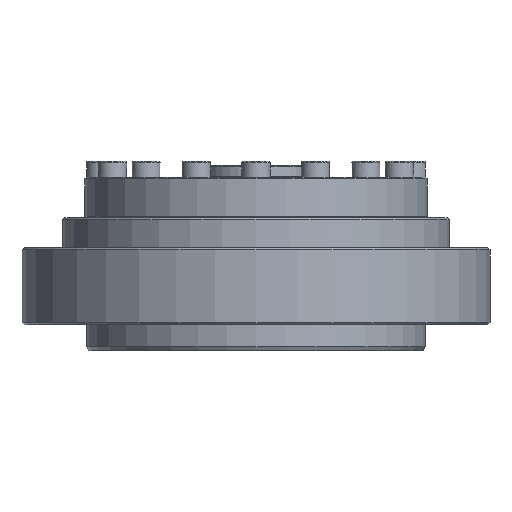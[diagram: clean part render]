
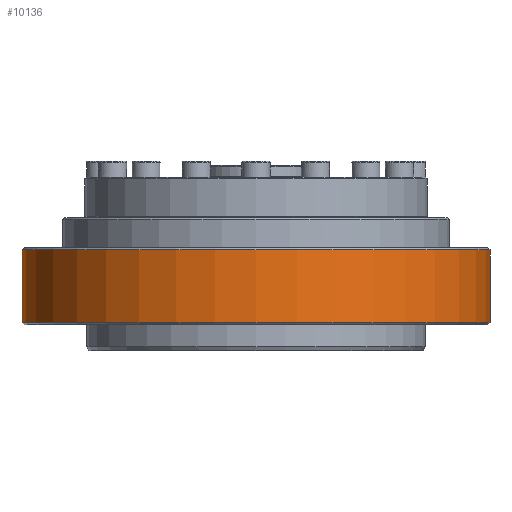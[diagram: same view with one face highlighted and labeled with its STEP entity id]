
A CAD part, front view. The second image highlights one B-rep face of the part: STEP entity #10136.
In plain terms, the highlighted cylindrical face has radius 58 mm (diameter 116 mm), a full revolution.
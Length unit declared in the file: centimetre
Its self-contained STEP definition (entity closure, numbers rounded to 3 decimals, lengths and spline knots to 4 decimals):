
#2371=FACE_BOUND('',#3970,.T.);
#3027=FACE_OUTER_BOUND('',#3969,.T.);
#3969=EDGE_LOOP('',(#8845));
#3970=EDGE_LOOP('',(#8846));
#4717=CIRCLE('',#11355,5.8);
#4720=CIRCLE('',#11360,5.8);
#5534=VERTEX_POINT('',#17197);
#5537=VERTEX_POINT('',#17205);
#6711=EDGE_CURVE('',#5534,#5534,#4717,.T.);
#6714=EDGE_CURVE('',#5537,#5537,#4720,.T.);
#8845=ORIENTED_EDGE('',*,*,#6711,.F.);
#8846=ORIENTED_EDGE('',*,*,#6714,.F.);
#9555=CYLINDRICAL_SURFACE('',#11359,5.8);
#10136=ADVANCED_FACE('',(#3027,#2371),#9555,.T.);
#11355=AXIS2_PLACEMENT_3D('',#17198,#14081,#14082);
#11359=AXIS2_PLACEMENT_3D('',#17204,#14089,#14090);
#11360=AXIS2_PLACEMENT_3D('',#17206,#14091,#14092);
#14081=DIRECTION('center_axis',(0.,0.,1.));
#14082=DIRECTION('ref_axis',(0.,1.,0.));
#14089=DIRECTION('center_axis',(0.,0.,1.));
#14090=DIRECTION('ref_axis',(0.,-1.,0.));
#14091=DIRECTION('center_axis',(0.,0.,-1.));
#14092=DIRECTION('ref_axis',(0.,1.,0.));
#17197=CARTESIAN_POINT('',(0.,-5.8,2.5));
#17198=CARTESIAN_POINT('Origin',(0.,0.,2.5));
#17204=CARTESIAN_POINT('Origin',(0.,0.,1.6));
#17205=CARTESIAN_POINT('',(0.,-5.8,0.7));
#17206=CARTESIAN_POINT('Origin',(0.,0.,0.7));
